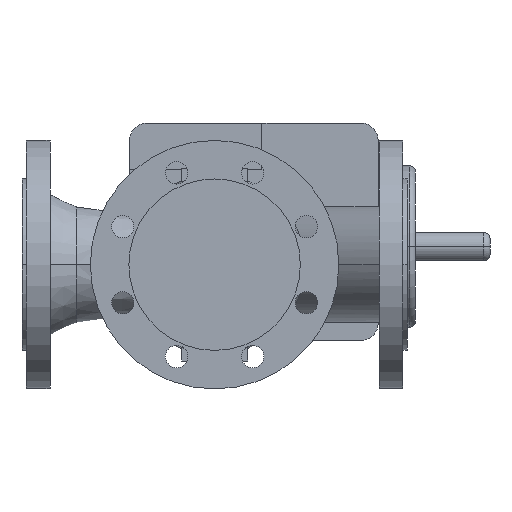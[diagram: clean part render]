
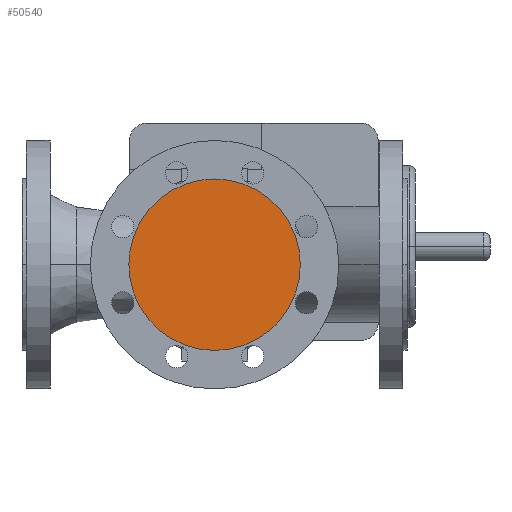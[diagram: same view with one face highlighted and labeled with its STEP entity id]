
A CAD part, front view. The second image highlights one B-rep face of the part: STEP entity #50540.
In plain terms, the highlighted planar face has unit normal (0, -1, 0).
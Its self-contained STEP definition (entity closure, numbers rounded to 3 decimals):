
#3390=CARTESIAN_POINT('',(86.,-130.,0.));
#3400=VERTEX_POINT('',#3390);
#3560=CARTESIAN_POINT('',(224.,-130.,0.));
#3570=VERTEX_POINT('',#3560);
#3600=CARTESIAN_POINT('',(155.,-130.,0.));
#3610=DIRECTION('',(0.,1.,0.));
#3620=DIRECTION('',(1.,0.,0.));
#3630=AXIS2_PLACEMENT_3D('',#3600,#3610,#3620);
#3640=CIRCLE('',#3630,69.);
#3650=EDGE_CURVE('',#3400,#3570,#3640,.T.);
#50440=CARTESIAN_POINT('',(189.5,-130.,0.));
#50450=DIRECTION('',(0.,-1.,0.));
#50460=DIRECTION('',(-1.,0.,0.));
#50470=AXIS2_PLACEMENT_3D('',#50440,#50450,#50460);
#50480=PLANE('',#50470);
#50490=EDGE_CURVE('',#3570,#3400,#3640,.T.);
#50500=ORIENTED_EDGE('',*,*,#50490,.F.);
#50510=ORIENTED_EDGE('',*,*,#3650,.F.);
#50520=EDGE_LOOP('',(#50510,#50500));
#50530=FACE_OUTER_BOUND('',#50520,.T.);
#50540=ADVANCED_FACE('',(#50530),#50480,.T.);
